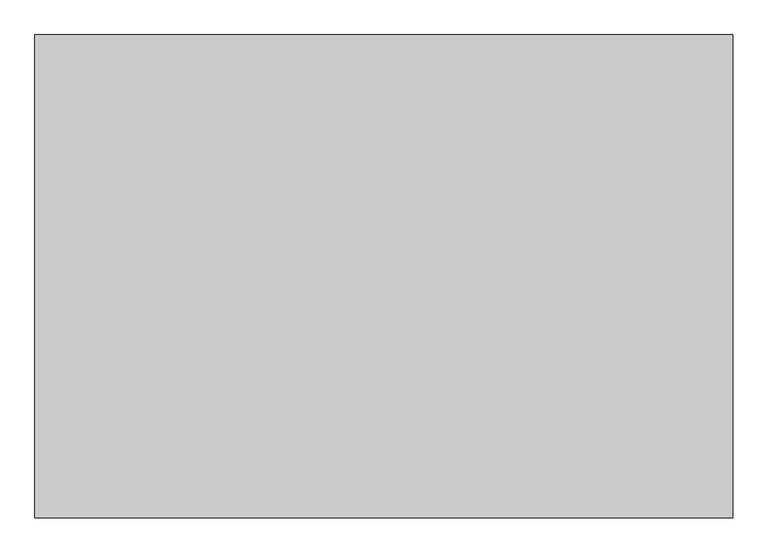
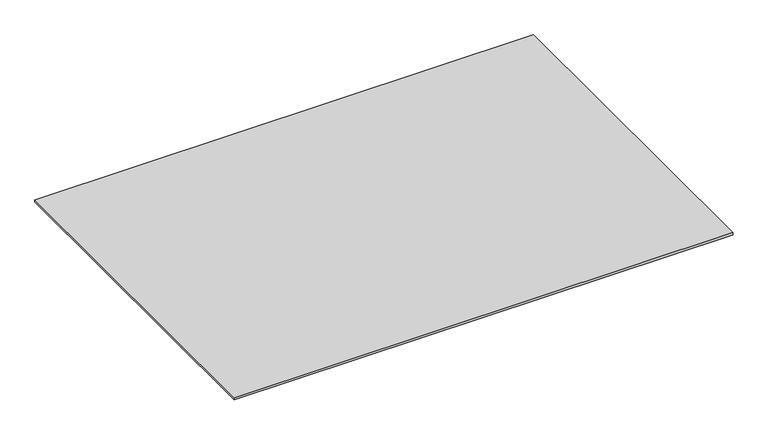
"""IFC4 building model written with IfcOpenShell, lengths in millimetres: valve geometry, Superpipe Manifold Cabinet door : Superpipe Manifold Cabinet door-12 Way."""

from ifc_helpers import new_model, si_unit, origin, origin_with_axes, place, context, project, spatial, polyline, outline, extrude, source, transform, mapped, element, save


def valve_f8c4578f(model_context):
    return source(origin(), model_context, "Body", "SweptSolid", [
        extrude(outline(polyline([(515.0, 356.5), (515.0, -356.5), (-515.0, -356.5), (-515.0, 356.5), (515.0, 356.5)])), origin_with_axes(), (0.0, 0.0, 1.0), 5.0),
    ])


if __name__ == "__main__":
    model = new_model("IFC4")
    model_context = context("Model", 3, world=origin())
    ifc_project = project(units=[si_unit("LENGTHUNIT", "METRE", prefix="MILLI")], contexts=[model_context])
    site = spatial("IfcSite", under=ifc_project)
    building = spatial("IfcBuilding", under=site)
    placement = place(None, origin())
    valve_shape = valve_f8c4578f(model_context)
    element("IfcValve", 1, ObjectType="Superpipe Manifold Cabinet door : Superpipe Manifold Cabinet door-12 Way", at=placement, inside=building, context=model_context, shape_type="MappedRepresentation", body=[
        mapped(valve_shape, transform((0.0, 0.0, 0.0), x_axis=(1.0, 0.0, 0.0), y_axis=(0.0, 1.0, 0.0), z_axis=(0.0, 0.0, 1.0))),
    ])
    save(model, "model.ifc")
